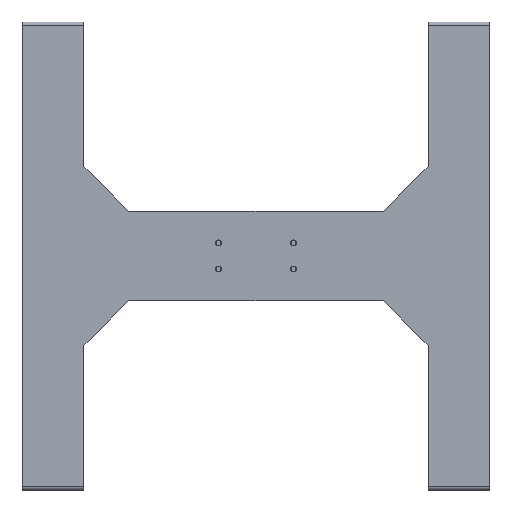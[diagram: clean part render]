
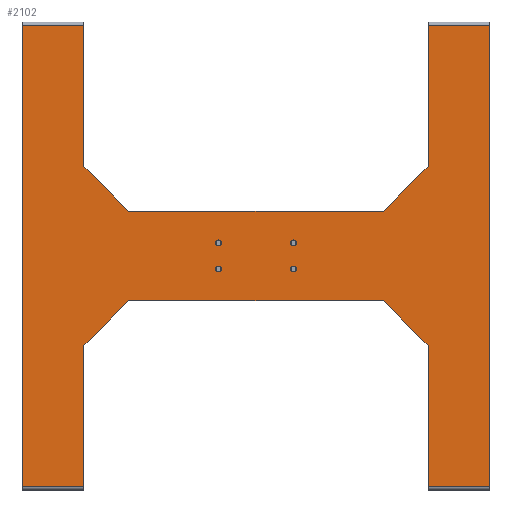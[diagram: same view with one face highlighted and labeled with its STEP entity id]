
A CAD part, top view. The second image highlights one B-rep face of the part: STEP entity #2102.
In plain terms, the highlighted planar face has unit normal (0, 0, 1).
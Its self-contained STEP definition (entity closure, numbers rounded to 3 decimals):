
#179=CIRCLE('',#2831,4.25);
#180=CIRCLE('',#2832,4.25);
#181=CIRCLE('',#2833,4.25);
#182=CIRCLE('',#2834,4.25);
#290=ORIENTED_EDGE('',*,*,#852,.T.);
#291=ORIENTED_EDGE('',*,*,#853,.T.);
#292=ORIENTED_EDGE('',*,*,#846,.F.);
#293=ORIENTED_EDGE('',*,*,#854,.T.);
#294=ORIENTED_EDGE('',*,*,#832,.F.);
#295=ORIENTED_EDGE('',*,*,#855,.F.);
#296=ORIENTED_EDGE('',*,*,#856,.F.);
#297=ORIENTED_EDGE('',*,*,#857,.F.);
#298=ORIENTED_EDGE('',*,*,#858,.F.);
#299=ORIENTED_EDGE('',*,*,#859,.T.);
#300=ORIENTED_EDGE('',*,*,#860,.F.);
#301=ORIENTED_EDGE('',*,*,#861,.F.);
#302=ORIENTED_EDGE('',*,*,#862,.T.);
#303=ORIENTED_EDGE('',*,*,#863,.T.);
#304=ORIENTED_EDGE('',*,*,#864,.T.);
#305=ORIENTED_EDGE('',*,*,#865,.T.);
#306=ORIENTED_EDGE('',*,*,#866,.T.);
#307=ORIENTED_EDGE('',*,*,#867,.F.);
#308=ORIENTED_EDGE('',*,*,#868,.F.);
#309=ORIENTED_EDGE('',*,*,#869,.F.);
#832=EDGE_CURVE('',#1113,#1114,#1314,.T.);
#846=EDGE_CURVE('',#1127,#1128,#1324,.T.);
#852=EDGE_CURVE('',#1133,#1133,#179,.T.);
#853=EDGE_CURVE('',#1134,#1134,#180,.T.);
#854=EDGE_CURVE('',#1127,#1114,#1328,.T.);
#855=EDGE_CURVE('',#1135,#1113,#1329,.T.);
#856=EDGE_CURVE('',#1136,#1135,#1330,.T.);
#857=EDGE_CURVE('',#1137,#1136,#1331,.T.);
#858=EDGE_CURVE('',#1138,#1137,#1332,.T.);
#859=EDGE_CURVE('',#1138,#1139,#1333,.T.);
#860=EDGE_CURVE('',#1140,#1139,#1334,.T.);
#861=EDGE_CURVE('',#1141,#1140,#1335,.T.);
#862=EDGE_CURVE('',#1141,#1142,#1336,.T.);
#863=EDGE_CURVE('',#1142,#1143,#1337,.T.);
#864=EDGE_CURVE('',#1143,#1144,#1338,.T.);
#865=EDGE_CURVE('',#1144,#1145,#1339,.T.);
#866=EDGE_CURVE('',#1145,#1146,#1340,.T.);
#867=EDGE_CURVE('',#1128,#1146,#1341,.T.);
#868=EDGE_CURVE('',#1147,#1147,#181,.T.);
#869=EDGE_CURVE('',#1148,#1148,#182,.T.);
#1113=VERTEX_POINT('',#3722);
#1114=VERTEX_POINT('',#3723);
#1127=VERTEX_POINT('',#3750);
#1128=VERTEX_POINT('',#3752);
#1133=VERTEX_POINT('',#3764);
#1134=VERTEX_POINT('',#3766);
#1135=VERTEX_POINT('',#3769);
#1136=VERTEX_POINT('',#3771);
#1137=VERTEX_POINT('',#3773);
#1138=VERTEX_POINT('',#3775);
#1139=VERTEX_POINT('',#3777);
#1140=VERTEX_POINT('',#3779);
#1141=VERTEX_POINT('',#3781);
#1142=VERTEX_POINT('',#3783);
#1143=VERTEX_POINT('',#3785);
#1144=VERTEX_POINT('',#3787);
#1145=VERTEX_POINT('',#3789);
#1146=VERTEX_POINT('',#3791);
#1147=VERTEX_POINT('',#3794);
#1148=VERTEX_POINT('',#3796);
#1314=LINE('',#3721,#1474);
#1324=LINE('',#3751,#1484);
#1328=LINE('',#3767,#1488);
#1329=LINE('',#3768,#1489);
#1330=LINE('',#3770,#1490);
#1331=LINE('',#3772,#1491);
#1332=LINE('',#3774,#1492);
#1333=LINE('',#3776,#1493);
#1334=LINE('',#3778,#1494);
#1335=LINE('',#3780,#1495);
#1336=LINE('',#3782,#1496);
#1337=LINE('',#3784,#1497);
#1338=LINE('',#3786,#1498);
#1339=LINE('',#3788,#1499);
#1340=LINE('',#3790,#1500);
#1341=LINE('',#3792,#1501);
#1474=VECTOR('',#3071,1000.);
#1484=VECTOR('',#3091,1000.);
#1488=VECTOR('',#3105,1000.);
#1489=VECTOR('',#3106,1000.);
#1490=VECTOR('',#3107,1000.);
#1491=VECTOR('',#3108,1000.);
#1492=VECTOR('',#3109,1000.);
#1493=VECTOR('',#3110,1000.);
#1494=VECTOR('',#3111,1000.);
#1495=VECTOR('',#3112,1000.);
#1496=VECTOR('',#3113,1000.);
#1497=VECTOR('',#3114,1000.);
#1498=VECTOR('',#3115,1000.);
#1499=VECTOR('',#3116,1000.);
#1500=VECTOR('',#3117,1000.);
#1501=VECTOR('',#3118,1000.);
#1636=EDGE_LOOP('',(#290));
#1637=EDGE_LOOP('',(#291));
#1638=EDGE_LOOP('',(#292,#293,#294,#295,#296,#297,#298,#299,#300,#301,#302,
#303,#304,#305,#306,#307));
#1639=EDGE_LOOP('',(#308));
#1640=EDGE_LOOP('',(#309));
#1832=FACE_BOUND('',#1636,.T.);
#1833=FACE_BOUND('',#1637,.T.);
#1834=FACE_BOUND('',#1638,.T.);
#1835=FACE_BOUND('',#1639,.T.);
#1836=FACE_BOUND('',#1640,.T.);
#2028=PLANE('',#2830);
#2102=ADVANCED_FACE('',(#1832,#1833,#1834,#1835,#1836),#2028,.F.);
#2830=AXIS2_PLACEMENT_3D('',#3762,#3099,#3100);
#2831=AXIS2_PLACEMENT_3D('',#3763,#3101,#3102);
#2832=AXIS2_PLACEMENT_3D('',#3765,#3103,#3104);
#2833=AXIS2_PLACEMENT_3D('',#3793,#3119,#3120);
#2834=AXIS2_PLACEMENT_3D('',#3795,#3121,#3122);
#3071=DIRECTION('',(0.,1.,0.));
#3091=DIRECTION('',(0.,-1.,0.));
#3099=DIRECTION('',(0.,0.,-1.));
#3100=DIRECTION('',(-1.,0.,0.));
#3101=DIRECTION('',(0.,0.,-1.));
#3102=DIRECTION('',(1.,0.,0.));
#3103=DIRECTION('',(0.,0.,-1.));
#3104=DIRECTION('',(-1.,0.,0.));
#3105=DIRECTION('',(-1.,0.,0.));
#3106=DIRECTION('',(0.707,0.707,0.));
#3107=DIRECTION('',(1.,0.,0.));
#3108=DIRECTION('',(0.707,-0.707,0.));
#3109=DIRECTION('',(0.,-1.,0.));
#3110=DIRECTION('',(-1.,0.,0.));
#3111=DIRECTION('',(0.,1.,0.));
#3112=DIRECTION('',(-1.,0.,0.));
#3113=DIRECTION('',(0.,1.,0.));
#3114=DIRECTION('',(0.707,0.707,0.));
#3115=DIRECTION('',(1.,0.,0.));
#3116=DIRECTION('',(0.707,-0.707,0.));
#3117=DIRECTION('',(0.,-1.,0.));
#3118=DIRECTION('',(-1.,0.,0.));
#3119=DIRECTION('',(0.,0.,1.));
#3120=DIRECTION('',(1.,0.,0.));
#3121=DIRECTION('',(0.,0.,1.));
#3122=DIRECTION('',(-1.,0.,0.));
#3721=CARTESIAN_POINT('',(250.,130.,0.));
#3722=CARTESIAN_POINT('',(250.,130.,0.));
#3723=CARTESIAN_POINT('',(250.,335.,0.));
#3750=CARTESIAN_POINT('',(340.,335.,0.));
#3751=CARTESIAN_POINT('',(340.,340.,0.));
#3752=CARTESIAN_POINT('',(340.,-335.,0.));
#3762=CARTESIAN_POINT('',(0.,0.,0.));
#3763=CARTESIAN_POINT('',(-54.5,19.,0.));
#3764=CARTESIAN_POINT('',(-50.25,19.,0.));
#3765=CARTESIAN_POINT('',(54.5,19.,0.));
#3766=CARTESIAN_POINT('',(50.25,19.,0.));
#3767=CARTESIAN_POINT('',(340.,335.,0.));
#3768=CARTESIAN_POINT('',(185.,65.,0.));
#3769=CARTESIAN_POINT('',(185.,65.,0.));
#3770=CARTESIAN_POINT('',(-185.,65.,0.));
#3771=CARTESIAN_POINT('',(-185.,65.,0.));
#3772=CARTESIAN_POINT('',(-250.,130.,0.));
#3773=CARTESIAN_POINT('',(-250.,130.,0.));
#3774=CARTESIAN_POINT('',(-250.,340.,0.));
#3775=CARTESIAN_POINT('',(-250.,335.,0.));
#3776=CARTESIAN_POINT('',(-250.,335.,0.));
#3777=CARTESIAN_POINT('',(-340.,335.,0.));
#3778=CARTESIAN_POINT('',(-340.,0.,0.));
#3779=CARTESIAN_POINT('',(-340.,-335.,0.));
#3780=CARTESIAN_POINT('',(-250.,-335.,0.));
#3781=CARTESIAN_POINT('',(-250.,-335.,0.));
#3782=CARTESIAN_POINT('',(-250.,-340.,0.));
#3783=CARTESIAN_POINT('',(-250.,-130.,0.));
#3784=CARTESIAN_POINT('',(-250.,-130.,0.));
#3785=CARTESIAN_POINT('',(-185.,-65.,0.));
#3786=CARTESIAN_POINT('',(-185.,-65.,0.));
#3787=CARTESIAN_POINT('',(185.,-65.,0.));
#3788=CARTESIAN_POINT('',(185.,-65.,0.));
#3789=CARTESIAN_POINT('',(250.,-130.,0.));
#3790=CARTESIAN_POINT('',(250.,-130.,0.));
#3791=CARTESIAN_POINT('',(250.,-335.,0.));
#3792=CARTESIAN_POINT('',(340.,-335.,0.));
#3793=CARTESIAN_POINT('',(-54.5,-19.,0.));
#3794=CARTESIAN_POINT('',(-50.25,-19.,0.));
#3795=CARTESIAN_POINT('',(54.5,-19.,0.));
#3796=CARTESIAN_POINT('',(50.25,-19.,0.));
